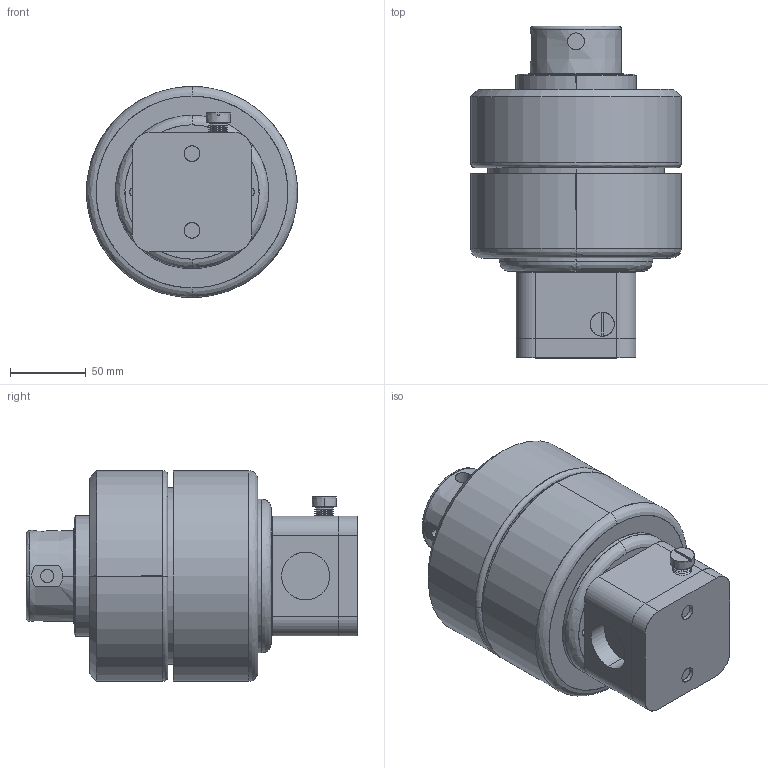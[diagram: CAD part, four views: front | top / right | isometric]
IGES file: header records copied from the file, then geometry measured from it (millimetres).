
Start section: SolidWorks IGES file using analytic representation for surfaces
Global section: file name: \\server\Users\Karen.Bodily\My Documents\defeatured\DBA060 INLINE.IGS; native system: SolidWorks 2012; preprocessor: SolidWorks 2012; author: karen.bodily; date: 130424.103139; units: inch
Bounding box: 139.7 x 219.74 x 139.7 mm (x, y, z)
Surface area: 209327.8 mm2 (no closed solid volume)
Topology: 0 solids, 0 shells, 375 faces, 5525 edges, 5525 vertices
Faces by surface type: revolution 284, bspline 91
